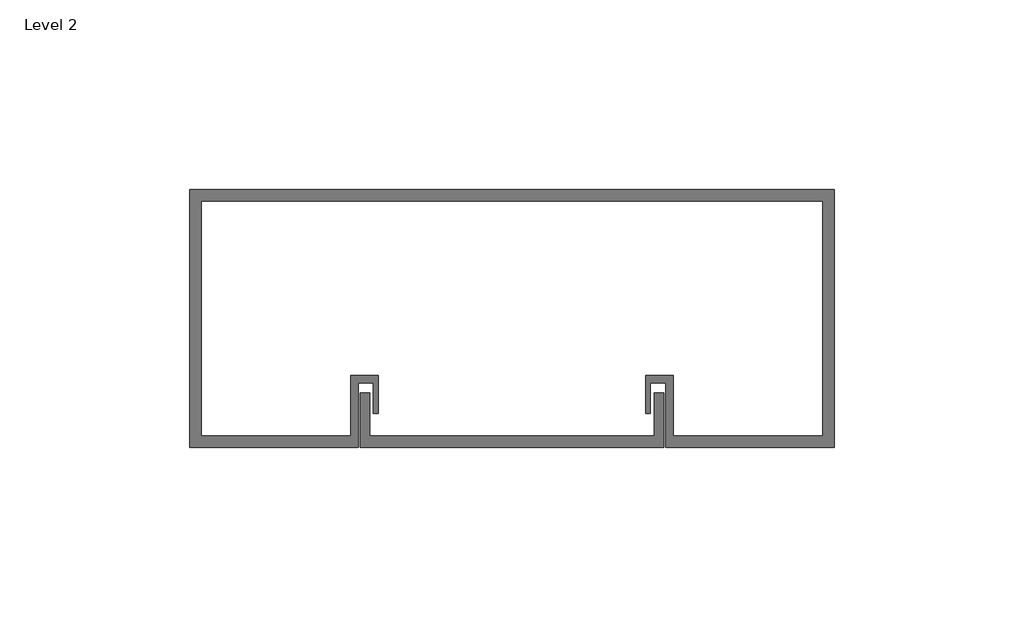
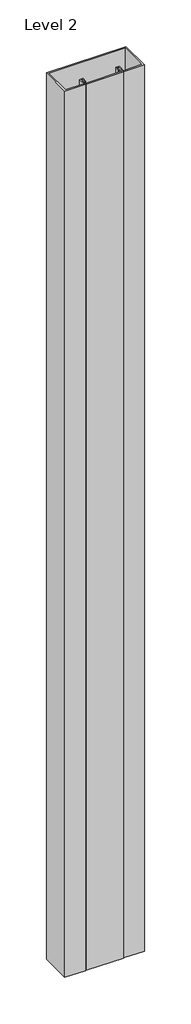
# One storey: 1 proxy.
"""IFC4 building model written with IfcOpenShell, lengths in millimetres."""

from ifc_helpers import new_model, si_unit, origin, place, context, project, spatial, transform, mapped, element, save
from components import ral9011_graphite_black_5f1cb885

model = new_model("IFC4")

# Units and contexts
model_context = context("Model", 3, world=origin())
ifc_project = project(units=[si_unit("LENGTHUNIT", "METRE", prefix="MILLI")], contexts=[model_context])

# Site, building, storey
site = spatial("IfcSite", under=ifc_project)
building = spatial("IfcBuilding", under=site)
storey = spatial("IfcBuildingStorey", under=building, Name="Level 2", Elevation=2000.0)

# Proxy
placement = place(None, origin())
ral9011_graphite_black_shape = ral9011_graphite_black_5f1cb885(model_context)
element("IfcBuildingElementProxy", 1, Name="Electrical_Installations_Hager_BRP-Lid-End-Cap-One-Compartment : RAL9011 - graphite black", ObjectType="Electrical_Installations_Hager_BRP-Lid-End-Cap-One-Compartment : RAL9011 - graphite black", at=placement, inside=storey, context=model_context, shape_type="MappedRepresentation", body=[
    mapped(ral9011_graphite_black_shape, transform((-1693.4191608, 3986.0812827, 4000.0), x_axis=(0.0, 0.0, -1.0), y_axis=(1.0, 0.0, 0.0), z_axis=(0.0, -1.0, 0.0))),
])

save(model, "model.ifc")
